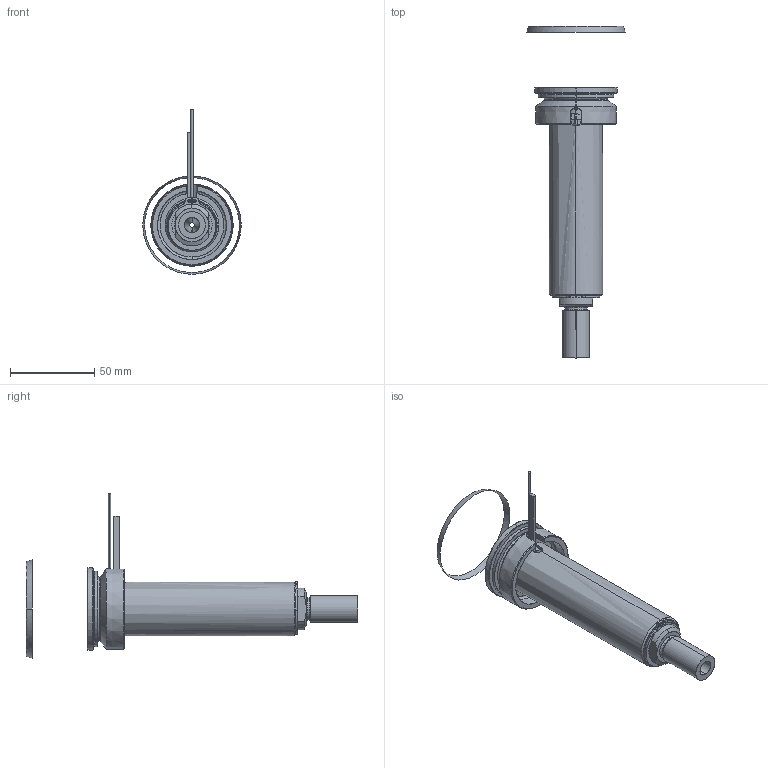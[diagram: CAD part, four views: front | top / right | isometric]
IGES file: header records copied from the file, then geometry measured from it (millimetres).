
Start section: SolidWorks IGES file using analytic representation for surfaces
Global section: file name: C:\Documents and Settings\ws-20\Desktop\TEMPORANEA\UGBE5003-S-A-P-5 [Ød-3.0 P-25 ØC-13].IGS; native system: SolidWorks 2012; preprocessor: SolidWorks 2012; author: ws-20; date: 120306.162331; units: millimetre
Bounding box: 58.57 x 197.44 x 97.91 mm (x, y, z)
Surface area: 53487.5 mm2 (no closed solid volume)
Topology: 0 solids, 0 shells, 114 faces, 2134 edges, 2134 vertices
Faces by surface type: revolution 70, bspline 44
